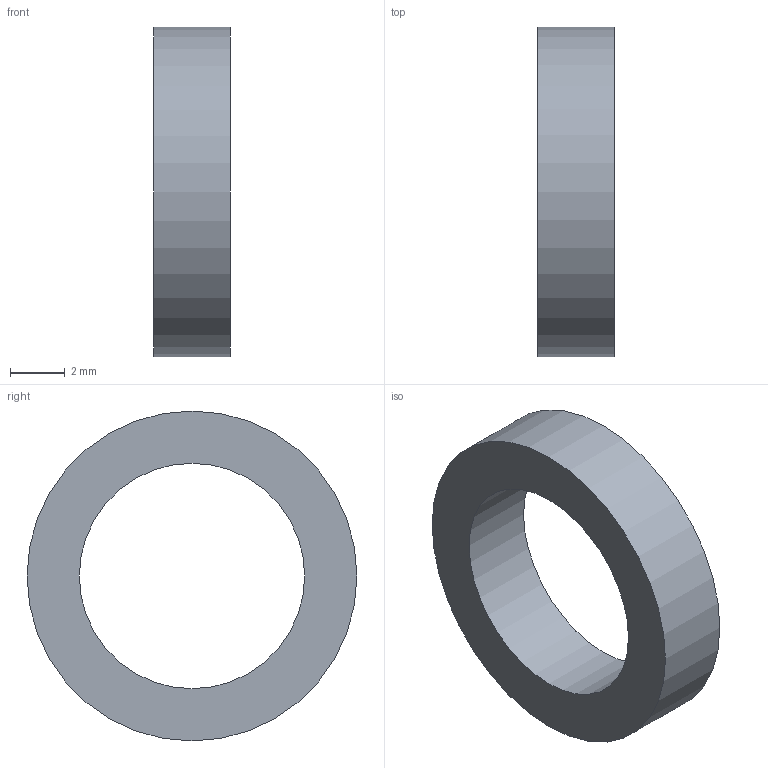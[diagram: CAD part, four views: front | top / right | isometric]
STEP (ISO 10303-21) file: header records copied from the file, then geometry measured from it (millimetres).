
FILE_DESCRIPTION(('Open CASCADE Model'),'2;1');
FILE_NAME('Open CASCADE Shape Model','2026-11-04T08:45:18',('Author'),( 'Open CASCADE'),'Open CASCADE STEP processor 7.8','Open CASCADE 7.8' ,'Unknown');
FILE_SCHEMA(('AUTOMOTIVE_DESIGN { 1 0 10303 214 1 1 1 1 }'));
Length unit declared in the file: millimetre
Products named in the file (1): Open CASCADE STEP translator 7.8 20
Bounding box: 2.8 x 12 x 12 mm (x, y, z)
Volume: 168.8 mm3; surface area: 298.3 mm2
Topology: 1 solids, 1 shells, 4 faces, 6 edges, 4 vertices
Faces by surface type: cylinder 2, plane 2
Full cylindrical faces by diameter (mm): 8.2 x1, 12 x1
Entity records: 186 total; most frequent: DIRECTION 32, CARTESIAN_POINT 27, ORIENTED_EDGE 12, PCURVE 12, DEFINITIONAL_REPRESENTATION 12, LINE 10, VECTOR 10, AXIS2_PLACEMENT_3D 9
